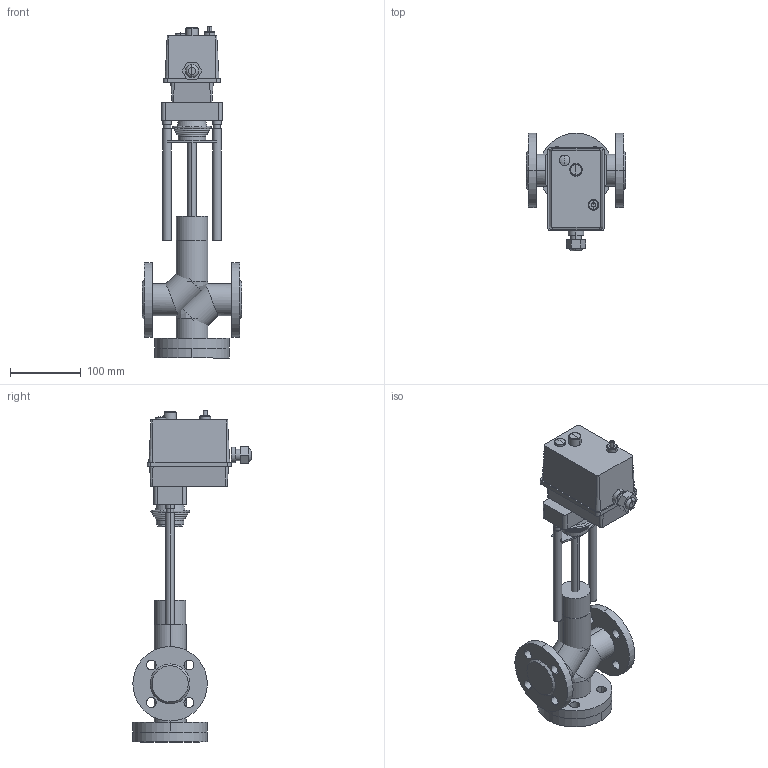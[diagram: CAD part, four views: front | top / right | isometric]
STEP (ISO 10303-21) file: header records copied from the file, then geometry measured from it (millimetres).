
FILE_DESCRIPTION(/* description */ (''),/* implementation_level */ '2;1');
FILE_NAME(/* name */ 'ТРК DN20 PN 1.6 МПа Regada ST MINI',/* time_stamp */ '2026-07-14T23:14:11+03:00',/* author */ (''),/* organization */ (''),/* preprocessor_version */ 'ST-DEVELOPER v20',/* originating_system */ '',/* authorisation */ '');
FILE_SCHEMA (('AP242_MANAGED_MODEL_BASED_3D_ENGINEERING_MIM_LF { 1 0 10303 442 1 1 4 }'));
Length unit declared in the file: millimetre
Products named in the file (14): TopLevelAssembly; Выдавливание; Модификатор; Модификатор_1; Выдавливание_
1; Выдавливание_
2; Вращение; Выдавливание_
3; Выдавливание_
4; Привод_Regada ST Mini; Переход; Объемная геометрия 
присоединена; Полый Выдавливание; Объемная геометрия 
присоединена_1
Assembly tree (13 placements, depth 2):
  TopLevelAssembly
    Выдавливание
    Модификатор
    Модификатор_1
    Выдавливание_
1
    Выдавливание_
2
    Вращение
    Выдавливание_
3
    Выдавливание_
4
    Привод_Regada ST Mini
    Переход
    Объемная геометрия 
присоединена
    Полый Выдавливание
    Объемная геометрия 
присоединена_1
Bounding box: 140 x 166.67 x 468 mm (x, y, z)
Volume: 1849265.9 mm3; surface area: 298317.8 mm2
Topology: 28 solids, 28 shells, 248 faces, 503 edges, 302 vertices
Faces by surface type: plane 122, cylinder 88, bspline 30, cone 8
Entity records: 7453 total; most frequent: CARTESIAN_POINT 1636, DIRECTION 1239, ORIENTED_EDGE 986, AXIS2_PLACEMENT_3D 501, EDGE_CURVE 493, VERTEX_POINT 302, EDGE_LOOP 278, FACE_OUTER_BOUND 248
